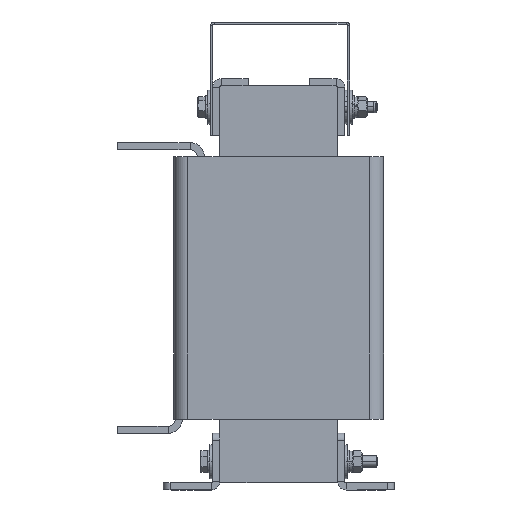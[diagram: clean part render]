
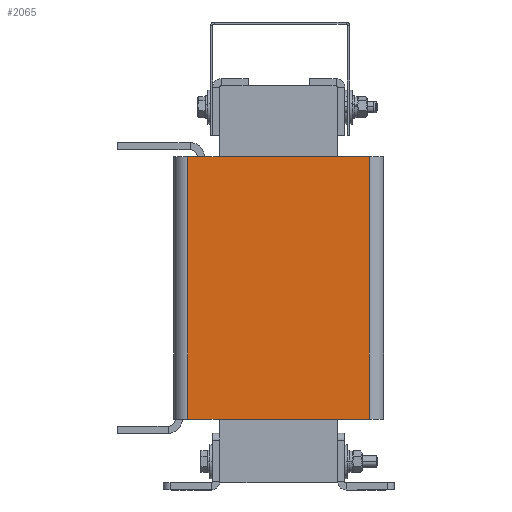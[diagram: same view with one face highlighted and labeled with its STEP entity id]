
A CAD part, left-side view. The second image highlights one B-rep face of the part: STEP entity #2065.
In plain terms, the highlighted planar face has unit normal (-1, 0, 0).
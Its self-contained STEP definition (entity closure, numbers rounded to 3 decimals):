
#76 = VECTOR ( 'NONE', #5709, 1000. ) ;
#153 = DIRECTION ( 'NONE',  ( 0., 0., -1. ) ) ;
#595 = DIRECTION ( 'NONE',  ( 0., -1., 0. ) ) ;
#706 = ORIENTED_EDGE ( 'NONE', *, *, #2268, .T. ) ;
#1757 = CARTESIAN_POINT ( 'NONE',  ( -43.5, 74., -185. ) ) ;
#1887 = LINE ( 'NONE', #5656, #76 ) ;
#2065 = ADVANCED_FACE ( 'NONE', ( #5779 ), #5671, .T. ) ;
#2268 = EDGE_CURVE ( 'NONE', #9414, #2377, #3601, .T. ) ;
#2377 = VERTEX_POINT ( 'NONE', #6302 ) ;
#2679 = ORIENTED_EDGE ( 'NONE', *, *, #7952, .T. ) ;
#2924 = VERTEX_POINT ( 'NONE', #6282 ) ;
#3601 = LINE ( 'NONE', #6030, #10273 ) ;
#3619 = EDGE_CURVE ( 'NONE', #6648, #2924, #7193, .T. ) ;
#5656 = CARTESIAN_POINT ( 'NONE',  ( -43.5, -64., -185. ) ) ;
#5671 = PLANE ( 'NONE',  #6771 ) ;
#5709 = DIRECTION ( 'NONE',  ( 0., 0., 1. ) ) ;
#5779 = FACE_OUTER_BOUND ( 'NONE', #6039, .T. ) ;
#6030 = CARTESIAN_POINT ( 'NONE',  ( -43.5, 74., -185. ) ) ;
#6039 = EDGE_LOOP ( 'NONE', ( #7379, #2679, #706, #7171 ) ) ;
#6282 = CARTESIAN_POINT ( 'NONE',  ( -43.5, -64., 0. ) ) ;
#6302 = CARTESIAN_POINT ( 'NONE',  ( -43.5, -64., -185. ) ) ;
#6554 = LINE ( 'NONE', #7701, #9386 ) ;
#6648 = VERTEX_POINT ( 'NONE', #9501 ) ;
#6771 = AXIS2_PLACEMENT_3D ( 'NONE', #1757, #7409, #7309 ) ;
#7171 = ORIENTED_EDGE ( 'NONE', *, *, #9669, .T. ) ;
#7193 = LINE ( 'NONE', #9712, #8803 ) ;
#7309 = DIRECTION ( 'NONE',  ( 0., 0., 1. ) ) ;
#7379 = ORIENTED_EDGE ( 'NONE', *, *, #3619, .F. ) ;
#7409 = DIRECTION ( 'NONE',  ( -1., 0., 0. ) ) ;
#7701 = CARTESIAN_POINT ( 'NONE',  ( -43.5, 64., -185. ) ) ;
#7952 = EDGE_CURVE ( 'NONE', #6648, #9414, #6554, .T. ) ;
#8803 = VECTOR ( 'NONE', #595, 1000. ) ;
#9342 = DIRECTION ( 'NONE',  ( 0., -1., 0. ) ) ;
#9386 = VECTOR ( 'NONE', #153, 1000. ) ;
#9414 = VERTEX_POINT ( 'NONE', #9654 ) ;
#9501 = CARTESIAN_POINT ( 'NONE',  ( -43.5, 64., 0. ) ) ;
#9654 = CARTESIAN_POINT ( 'NONE',  ( -43.5, 64., -185. ) ) ;
#9669 = EDGE_CURVE ( 'NONE', #2377, #2924, #1887, .T. ) ;
#9712 = CARTESIAN_POINT ( 'NONE',  ( -43.5, 74., 0. ) ) ;
#10273 = VECTOR ( 'NONE', #9342, 1000. ) ;
